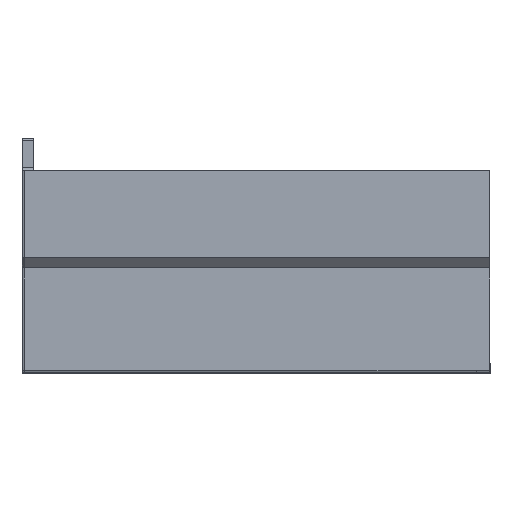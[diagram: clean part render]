
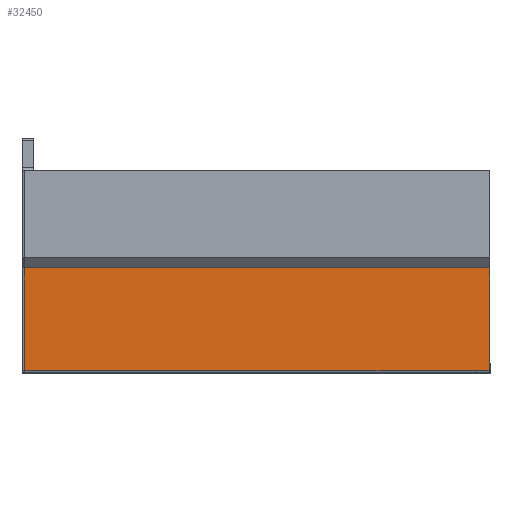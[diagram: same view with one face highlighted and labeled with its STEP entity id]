
A CAD part, top view. The second image highlights one B-rep face of the part: STEP entity #32450.
In plain terms, the highlighted planar face has unit normal (0, 0, 1) as drawn and (1, 0, 0) by its records, which use the part's own axes.
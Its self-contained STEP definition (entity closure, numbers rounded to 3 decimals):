
#237 = CARTESIAN_POINT ( 'NONE',  ( -2., 3., -39.964 ) ) ;
#543 = CARTESIAN_POINT ( 'NONE',  ( -2., 3., 43.536 ) ) ;
#753 = DIRECTION ( 'NONE',  ( 0., 1., 0. ) ) ;
#1219 = CARTESIAN_POINT ( 'NONE',  ( -2., 0., 21.236 ) ) ;
#1944 = LINE ( 'NONE', #9114, #19708 ) ;
#2286 = AXIS2_PLACEMENT_3D ( 'NONE', #237, #28093, #753 ) ;
#4315 = DIRECTION ( 'NONE',  ( 0., 1., 0. ) ) ;
#4891 = VERTEX_POINT ( 'NONE', #31316 ) ;
#5416 = VECTOR ( 'NONE', #22749, 1000. ) ;
#5688 = DIRECTION ( 'NONE',  ( 0., -1., 0. ) ) ;
#6054 = DIRECTION ( 'NONE',  ( 0., 0., 1. ) ) ;
#7148 = CARTESIAN_POINT ( 'NONE',  ( -2., 3., 43.536 ) ) ;
#7159 = LINE ( 'NONE', #29835, #27298 ) ;
#9114 = CARTESIAN_POINT ( 'NONE',  ( -2., 101.2, -39.964 ) ) ;
#9157 = ORIENTED_EDGE ( 'NONE', *, *, #23076, .F. ) ;
#9258 = ORIENTED_EDGE ( 'NONE', *, *, #24554, .T. ) ;
#9530 = EDGE_LOOP ( 'NONE', ( #9258, #23744, #12783, #32547, #9157 ) ) ;
#10218 = LINE ( 'NONE', #30545, #5416 ) ;
#12405 = VERTEX_POINT ( 'NONE', #32249 ) ;
#12406 = CARTESIAN_POINT ( 'NONE',  ( -2., 0., 21.236 ) ) ;
#12532 = EDGE_CURVE ( 'NONE', #17348, #12405, #21068, .T. ) ;
#12783 = ORIENTED_EDGE ( 'NONE', *, *, #24226, .T. ) ;
#16647 = VECTOR ( 'NONE', #5688, 1000. ) ;
#16963 = VERTEX_POINT ( 'NONE', #12406 ) ;
#17348 = VERTEX_POINT ( 'NONE', #7148 ) ;
#18296 = VERTEX_POINT ( 'NONE', #24758 ) ;
#19466 = DIRECTION ( 'NONE',  ( 0., 0., 1. ) ) ;
#19708 = VECTOR ( 'NONE', #19466, 1000. ) ;
#21068 = LINE ( 'NONE', #543, #16647 ) ;
#21138 = EDGE_CURVE ( 'NONE', #18296, #4891, #1944, .T. ) ;
#22749 = DIRECTION ( 'NONE',  ( 0., -1., 0. ) ) ;
#23076 = EDGE_CURVE ( 'NONE', #16963, #12405, #27065, .T. ) ;
#23744 = ORIENTED_EDGE ( 'NONE', *, *, #21138, .T. ) ;
#24226 = EDGE_CURVE ( 'NONE', #4891, #17348, #10218, .T. ) ;
#24554 = EDGE_CURVE ( 'NONE', #16963, #18296, #7159, .T. ) ;
#24758 = CARTESIAN_POINT ( 'NONE',  ( -2., 101.2, 21.236 ) ) ;
#25435 = FACE_OUTER_BOUND ( 'NONE', #9530, .T. ) ;
#27065 = LINE ( 'NONE', #1219, #29399 ) ;
#27298 = VECTOR ( 'NONE', #4315, 1000. ) ;
#28093 = DIRECTION ( 'NONE',  ( 1., 0., 0. ) ) ;
#29399 = VECTOR ( 'NONE', #6054, 1000. ) ;
#29835 = CARTESIAN_POINT ( 'NONE',  ( -2., 0., 21.236 ) ) ;
#30545 = CARTESIAN_POINT ( 'NONE',  ( -2., 101.2, 43.536 ) ) ;
#31101 = PLANE ( 'NONE',  #2286 ) ;
#31316 = CARTESIAN_POINT ( 'NONE',  ( -2., 101.2, 43.536 ) ) ;
#32249 = CARTESIAN_POINT ( 'NONE',  ( -2., 0., 43.536 ) ) ;
#32450 = ADVANCED_FACE ( 'NONE', ( #25435 ), #31101, .T. ) ;
#32547 = ORIENTED_EDGE ( 'NONE', *, *, #12532, .T. ) ;
